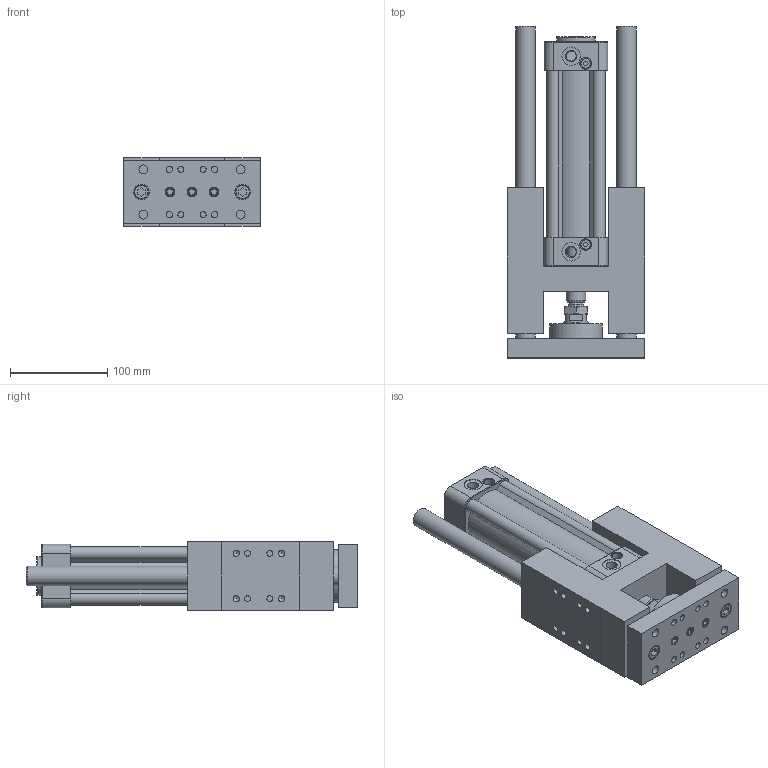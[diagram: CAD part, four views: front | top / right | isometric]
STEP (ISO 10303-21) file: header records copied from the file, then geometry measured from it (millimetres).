
FILE_DESCRIPTION((''),'2;1');
FILE_NAME('I:\3D電子目錄\氣缸\GHB(U)\GHB(U)\GHB(U)50\GHB(U)50x125.stp','2007-10-19T16:39:37',('Administrator'),(''),'Autodesk Inventor 11','Autodesk Inventor 11','');
FILE_SCHEMA(('AUTOMOTIVE_DESIGN { 1 0 10303 214 1 1 1 1 }'));
Length unit declared in the file: millimetre
Products named in the file (1): GHB(U)50
Bounding box: 141 x 341 x 70 mm (x, y, z)
Volume: 1532709.5 mm3; surface area: 304512.4 mm2
Topology: 1 solids, 13 shells, 779 faces, 1736 edges, 1075 vertices
Faces by surface type: plane 299, bspline 222, cylinder 163, cone 88, torus 7
Full cylindrical faces by diameter (mm): 2.5 x2, 6 x8, 6.647 x4, 6.7 x2, 6.75 x4, 7.25 x2, 7.4 x4, 7.5 x2, 8.5 x9, 9 x2, 9.8 x4, 10 x5, 11.5 x1, 11.9 x1, 12 x3, 13 x4, 14 x8, 14.5 x2, 16 x3, 19 x2, 20 x4, 23 x1, 25 x1, 26 x2, 40 x1, 50 x1, 54 x1
Entity records: 22633 total; most frequent: CARTESIAN_POINT 7068, DIRECTION 3100, ORIENTED_EDGE 3020, EDGE_CURVE 1510, AXIS2_PLACEMENT_3D 1202, EDGE_LOOP 1071, VERTEX_POINT 1029, FACE_OUTER_BOUND 778
